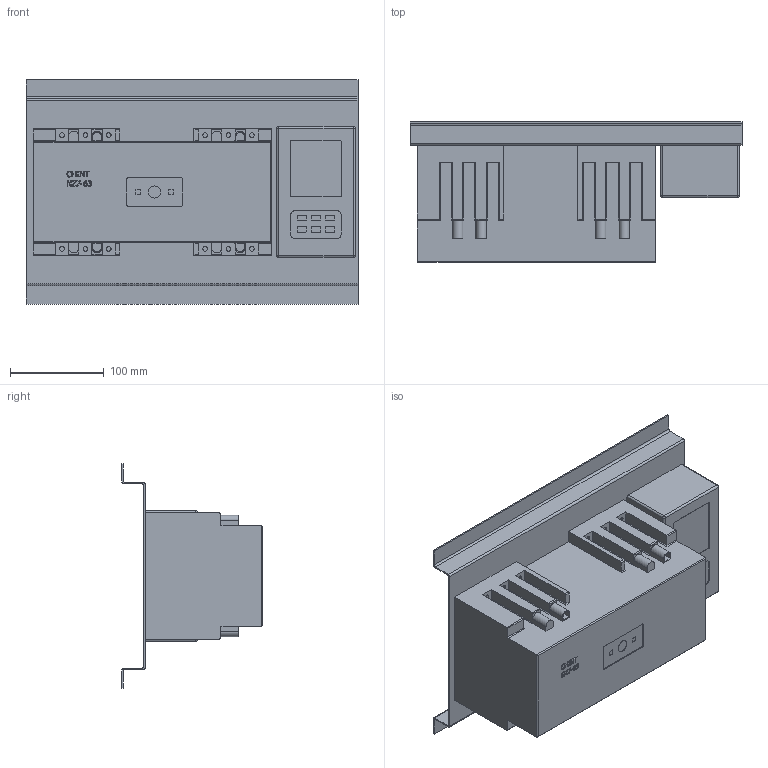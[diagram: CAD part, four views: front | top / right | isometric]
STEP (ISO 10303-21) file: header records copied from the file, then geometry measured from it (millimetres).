
FILE_DESCRIPTION(/* description */ ('','CAx-IF Rec.Pracs.---Representation and Presentation of Product Manufacturing Information (PMI)---3.8---2014-02-18'),/* implementation_level */ '2;1');
FILE_NAME(/* name */ 'C:\Users\ILYA\Desktop\NZ7\NZ7-63(3P)\NZ7-63(3P).stp',/* time_stamp */ '2017-08-15T20:12:14+03:00',/* author */ ('ILYA'),/* organization */ (''),/* preprocessor_version */ 'ST-DEVELOPER v16.1',/* originating_system */ 'Autodesk Inventor 2016',/* authorisation */ '');
FILE_SCHEMA (('AP242_MANAGED_MODEL_BASED_3D_ENGINEERING_MIM_LF { 1 0 10303 442 1 1 4 }'));
Length unit declared in the file: millimetre
Products named in the file (1): NZ7-63(3P)
Bounding box: 355 x 150 x 240 mm (x, y, z)
Volume: 4497397.1 mm3; surface area: 353113.9 mm2
Topology: 1 solids, 1 shells, 477 faces, 1275 edges, 842 vertices
Faces by surface type: plane 291, cylinder 128, bspline 54, sphere 4
Full cylindrical faces by diameter (mm): 5 x12, 13 x1
Entity records: 15287 total; most frequent: CARTESIAN_POINT 3447, ORIENTED_EDGE 2524, DIRECTION 2246, EDGE_CURVE 1262, LINE 910, VECTOR 910, VERTEX_POINT 842, AXIS2_PLACEMENT_3D 668
